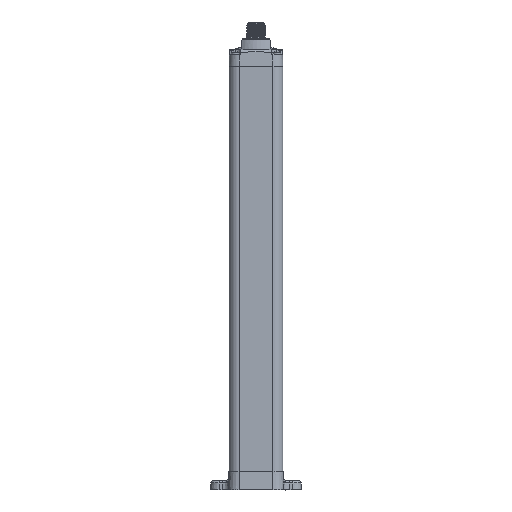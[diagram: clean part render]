
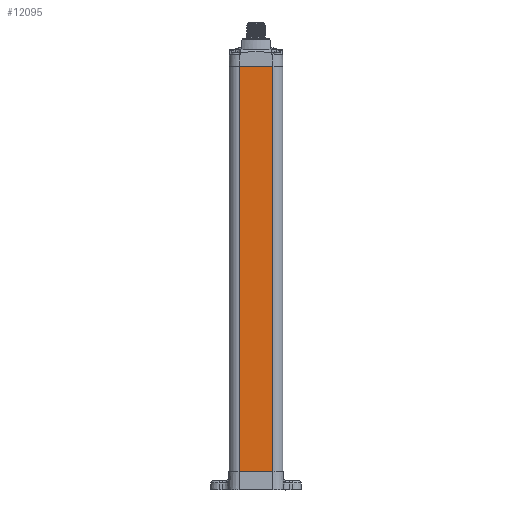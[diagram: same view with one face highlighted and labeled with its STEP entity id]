
A CAD part, front view. The second image highlights one B-rep face of the part: STEP entity #12095.
In plain terms, the highlighted planar face has unit normal (0, -1, 0).
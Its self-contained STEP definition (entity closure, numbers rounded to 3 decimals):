
#347=PLANE('',#31892);
#12095=ADVANCED_FACE('',(#13128),#347,.T.);
#13128=FACE_OUTER_BOUND('',#14110,.T.);
#14110=EDGE_LOOP('',(#19222,#19223,#19224,#19225));
#19222=ORIENTED_EDGE('',*,*,#28012,.T.);
#19223=ORIENTED_EDGE('',*,*,#28013,.T.);
#19224=ORIENTED_EDGE('',*,*,#28014,.T.);
#19225=ORIENTED_EDGE('',*,*,#28015,.T.);
#23617=VERTEX_POINT('',#61880);
#23618=VERTEX_POINT('',#61881);
#23619=VERTEX_POINT('',#61883);
#23620=VERTEX_POINT('',#61885);
#28012=EDGE_CURVE('',#23617,#23618,#29370,.T.);
#28013=EDGE_CURVE('',#23618,#23619,#29371,.T.);
#28014=EDGE_CURVE('',#23619,#23620,#29372,.T.);
#28015=EDGE_CURVE('',#23620,#23617,#29373,.T.);
#29370=LINE('',#61879,#30352);
#29371=LINE('',#61882,#30353);
#29372=LINE('',#61884,#30354);
#29373=LINE('',#61886,#30355);
#30352=VECTOR('',#35879,1.);
#30353=VECTOR('',#35880,1.);
#30354=VECTOR('',#35881,1.);
#30355=VECTOR('',#35882,1.);
#31892=AXIS2_PLACEMENT_3D('',#61887,#35883,#35884);
#35879=DIRECTION('',(1.,0.,0.));
#35880=DIRECTION('',(0.,0.,1.));
#35881=DIRECTION('',(-1.,0.,0.));
#35882=DIRECTION('',(0.,0.,-1.));
#35883=DIRECTION('',(0.,-1.,0.));
#35884=DIRECTION('',(1.,0.,0.));
#61879=CARTESIAN_POINT('',(-43.297,-127.634,-29.313));
#61880=CARTESIAN_POINT('',(-54.297,-127.634,-29.313));
#61881=CARTESIAN_POINT('',(-32.297,-127.634,-29.313));
#61882=CARTESIAN_POINT('',(-32.297,-127.634,102.687));
#61883=CARTESIAN_POINT('',(-32.297,-127.634,234.687));
#61884=CARTESIAN_POINT('',(-43.297,-127.634,234.687));
#61885=CARTESIAN_POINT('',(-54.297,-127.634,234.687));
#61886=CARTESIAN_POINT('',(-54.297,-127.634,102.687));
#61887=CARTESIAN_POINT('',(-54.297,-127.634,-29.313));
